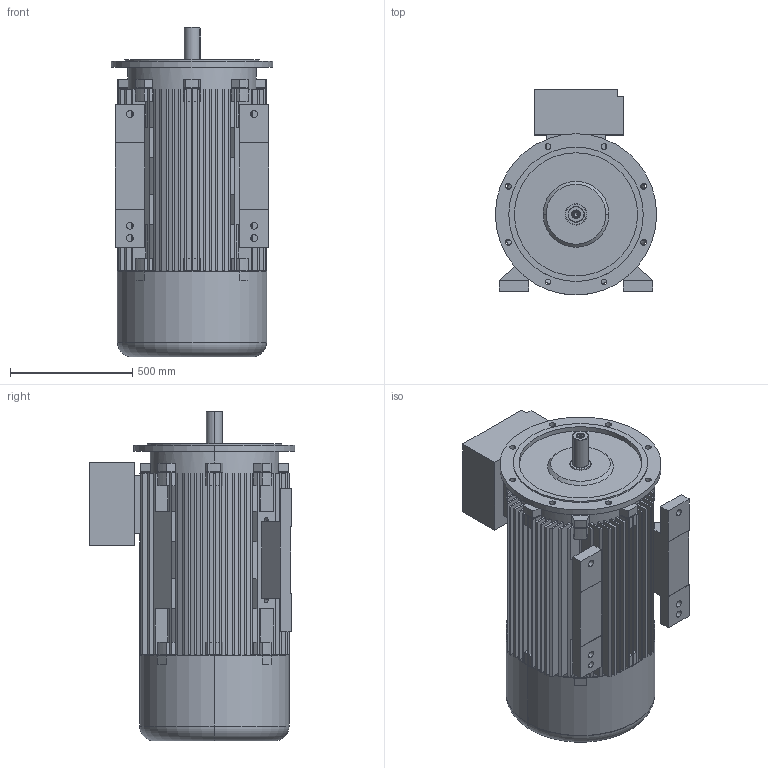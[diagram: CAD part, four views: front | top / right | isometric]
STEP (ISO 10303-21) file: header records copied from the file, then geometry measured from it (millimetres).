
FILE_DESCRIPTION (( 'STEP AP203' ), '1' );
FILE_NAME ('20.18435_C 7AT 315LX -2 B35 Exd STANDK.STEP', '2018-06-26T10:54:09', ( '' ), ( '' ), 'SwSTEP 2.0', 'SolidWorks 2018', '' );
FILE_SCHEMA (( 'CONFIG_CONTROL_DESIGN' ));
Length unit declared in the file: millimetre
Products named in the file (1): 20.18435_C 7AT 315LX -2 B35 Exd STANDK
Bounding box: 660 x 843 x 1350 mm (x, y, z)
Volume: 113781086.8 mm3; surface area: 11987408.2 mm2
Topology: 7 solids, 7 shells, 852 faces, 2292 edges, 1519 vertices
Faces by surface type: plane 680, cylinder 141, cone 18, bspline 9, torus 4
Entity records: 26866 total; most frequent: CARTESIAN_POINT 4971, ORIENTED_EDGE 4580, DIRECTION 4460, EDGE_CURVE 2290, LINE 1724, VECTOR 1724, VERTEX_POINT 1519, AXIS2_PLACEMENT_3D 1368
